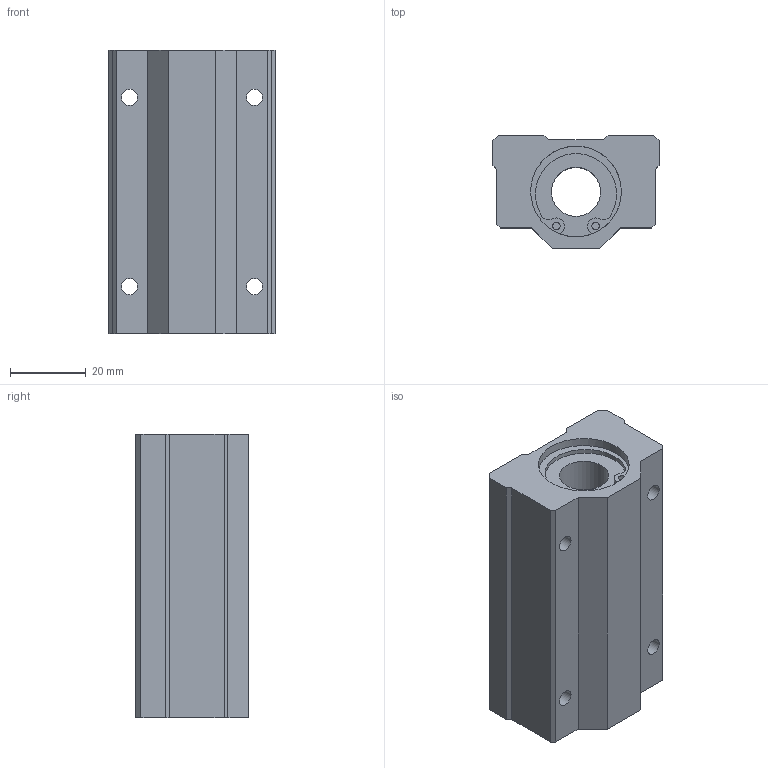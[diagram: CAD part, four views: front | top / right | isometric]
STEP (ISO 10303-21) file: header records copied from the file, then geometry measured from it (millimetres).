
FILE_DESCRIPTION(('STEP AP203'),'1');
FILE_NAME('//192.168.1.1/share/s-4 技術開発/s-4-4_CAD/s-4-4-3_見直し済み/008 修正済み/LC-L/LC-L_TOP/LC-13VLUU.step','2022-05-19T01:18:04',(' '),(' '),'Spatial InterOp 3D',' ',' ');
FILE_SCHEMA(('CONFIG_CONTROL_DESIGN'));
Length unit declared in the file: millimetre
Products named in the file (1): 1
Bounding box: 44 x 30 x 75 mm (x, y, z)
Volume: 70786.4 mm3; surface area: 16907.6 mm2
Topology: 1 solids, 1 shells, 63 faces, 165 edges, 110 vertices
Faces by surface type: plane 34, cylinder 29
Full cylindrical faces by diameter (mm): 2 x4, 4.3 x8, 13 x1, 24 x2
Entity records: 1890 total; most frequent: DIRECTION 328, CARTESIAN_POINT 312, ORIENTED_EDGE 288, EDGE_CURVE 144, AXIS2_PLACEMENT_3D 120, VERTEX_POINT 104, EDGE_LOOP 94, LINE 88
